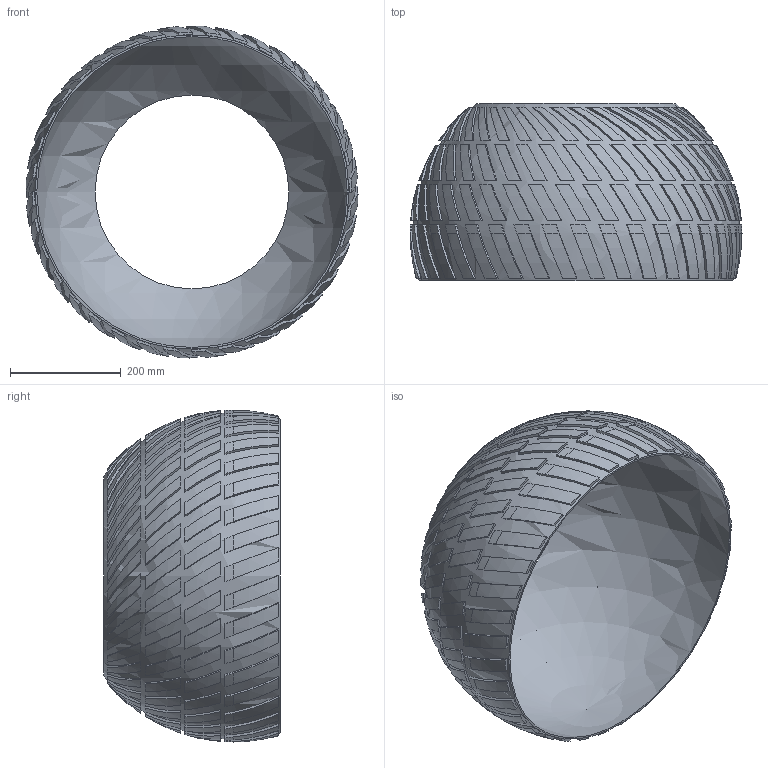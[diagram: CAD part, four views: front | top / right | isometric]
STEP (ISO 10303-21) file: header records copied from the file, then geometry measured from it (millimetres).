
FILE_DESCRIPTION(('Open CASCADE Model'),'2;1');
FILE_NAME('Open CASCADE Shape Model','2026-10-18T22:57:34',('Author'),( 'Open CASCADE'),'Open CASCADE STEP processor 7.9','Open CASCADE 7.9' ,'Unknown');
FILE_SCHEMA(('AUTOMOTIVE_DESIGN { 1 0 10303 214 1 1 1 1 }'));
Length unit declared in the file: millimetre
Products named in the file (147): Open CASCADE STEP translator 7.9 2; Open CASCADE STEP translator 7.9 2.1; Open CASCADE STEP translator 7.9 2.2; Open CASCADE STEP translator 7.9 2.2.1; Open CASCADE STEP translator 7.9 2.2.2; Open CASCADE STEP translator 7.9 2.2.3; Open CASCADE STEP translator 7.9 2.2.4; Open CASCADE STEP translator 7.9 2.2.5; Open CASCADE STEP translator 7.9 2.2.6; Open CASCADE STEP translator 7.9 2.2.7; Open CASCADE STEP translator 7.9 2.2.8; Open CASCADE STEP translator 7.9 2.2.9; Open CASCADE STEP translator 7.9 2.2.10; Open CASCADE STEP translator 7.9 2.2.11; Open CASCADE STEP translator 7.9 2.2.12; Open CASCADE STEP translator 7.9 2.2.13; Open CASCADE STEP translator 7.9 2.2.14; Open CASCADE STEP translator 7.9 2.2.15; Open CASCADE STEP translator 7.9 2.2.16; Open CASCADE STEP translator 7.9 2.2.17; Open CASCADE STEP translator 7.9 2.2.18; Open CASCADE STEP translator 7.9 2.2.19; Open CASCADE STEP translator 7.9 2.2.20; Open CASCADE STEP translator 7.9 2.2.21; Open CASCADE STEP translator 7.9 2.2.22; Open CASCADE STEP translator 7.9 2.2.23; Open CASCADE STEP translator 7.9 2.2.24; Open CASCADE STEP translator 7.9 2.2.25; Open CASCADE STEP translator 7.9 2.2.26; Open CASCADE STEP translator 7.9 2.2.27; Open CASCADE STEP translator 7.9 2.2.28; Open CASCADE STEP translator 7.9 2.2.29; Open CASCADE STEP translator 7.9 2.2.30; Open CASCADE STEP translator 7.9 2.2.31; Open CASCADE STEP translator 7.9 2.2.32; Open CASCADE STEP translator 7.9 2.2.33; Open CASCADE STEP translator 7.9 2.2.34; Open CASCADE STEP translator 7.9 2.2.35; Open CASCADE STEP translator 7.9 2.2.36; Open CASCADE STEP translator 7.9 2.2.37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
Assembly tree (146 placements, depth 3):
  Open CASCADE STEP translator 7.9 2
    Open CASCADE STEP translator 7.9 2.1
    Open CASCADE STEP translator 7.9 2.2
      Open CASCADE STEP translator 7.9 2.2.1
      Open CASCADE STEP translator 7.9 2.2.2
      Open CASCADE STEP translator 7.9 2.2.3
      Open CASCADE STEP translator 7.9 2.2.4
      Open CASCADE STEP translator 7.9 2.2.5
      Open CASCADE STEP translator 7.9 2.2.6
      Open CASCADE STEP translator 7.9 2.2.7
      Open CASCADE STEP translator 7.9 2.2.8
      Open CASCADE STEP translator 7.9 2.2.9
      Open CASCADE STEP translator 7.9 2.2.10
      Open CASCADE STEP translator 7.9 2.2.11
      Open CASCADE STEP translator 7.9 2.2.12
      Open CASCADE STEP translator 7.9 2.2.13
      Open CASCADE STEP translator 7.9 2.2.14
      Open CASCADE STEP translator 7.9 2.2.15
      Open CASCADE STEP translator 7.9 2.2.16
      Open CASCADE STEP translator 7.9 2.2.17
      Open CASCADE STEP translator 7.9 2.2.18
      Open CASCADE STEP translator 7.9 2.2.19
      Open CASCADE STEP translator 7.9 2.2.20
      Open CASCADE STEP translator 7.9 2.2.21
      Open CASCADE STEP translator 7.9 2.2.22
      Open CASCADE STEP translator 7.9 2.2.23
      Open CASCADE STEP translator 7.9 2.2.24
      Open CASCADE STEP translator 7.9 2.2.25
      Open CASCADE STEP translator 7.9 2.2.26
      Open CASCADE STEP translator 7.9 2.2.27
      Open CASCADE STEP translator 7.9 2.2.28
      Open CASCADE STEP translator 7.9 2.2.29
      Open CASCADE STEP translator 7.9 2.2.30
      Open CASCADE STEP translator 7.9 2.2.31
      Open CASCADE STEP translator 7.9 2.2.32
      Open CASCADE STEP translator 7.9 2.2.33
      Open CASCADE STEP translator 7.9 2.2.34
      Open CASCADE STEP translator 7.9 2.2.35
      Open CASCADE STEP translator 7.9 2.2.36
      Open CASCADE STEP translator 7.9 2.2.37
      Open CASCADE STEP translator 7.9 2.2.38
      Open CASCADE STEP translator 7.9 2.2.39
      Open CASCADE STEP translator 7.9 2.2.40
      Open CASCADE STEP translator 7.9 2.2.41
      Open CASCADE STEP translator 7.9 2.2.42
      Open CASCADE STEP translator 7.9 2.2.43
      Open CASCADE STEP translator 7.9 2.2.44
      Open CASCADE STEP translator 7.9 2.2.45
      Open CASCADE STEP translator 7.9 2.2.46
      Open CASCADE STEP translator 7.9 2.2.47
      Open CASCADE STEP translator 7.9 2.2.48
      Open CASCADE STEP translator 7.9 2.2.49
      Open CASCADE STEP translator 7.9 2.2.50
      Open CASCADE STEP translator 7.9 2.2.51
      Open CASCADE STEP translator 7.9 2.2.52
      Open CASCADE STEP translator 7.9 2.2.53
      Open CASCADE STEP translator 7.9 2.2.54
      Open CASCADE STEP translator 7.9 2.2.55
      Open CASCADE STEP translator 7.9 2.2.56
      Open CASCADE STEP translator 7.9 2.2.57
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Bounding box: 599.94 x 319.5 x 599.94 mm (x, y, z)
Volume: 2973269.7 mm3; surface area: 1882039.9 mm2
Topology: 145 solids, 145 shells, 940 faces, 1954 edges, 1304 vertices
Faces by surface type: plane 578, sphere 362
Entity records: 71380 total; most frequent: CARTESIAN_POINT 28811, DIRECTION 8090, ORIENTED_EDGE 3896, PCURVE 3896, DEFINITIONAL_REPRESENTATION 3896, CIRCLE 2672, AXIS2_PLACEMENT_3D 2459, EDGE_CURVE 1948
